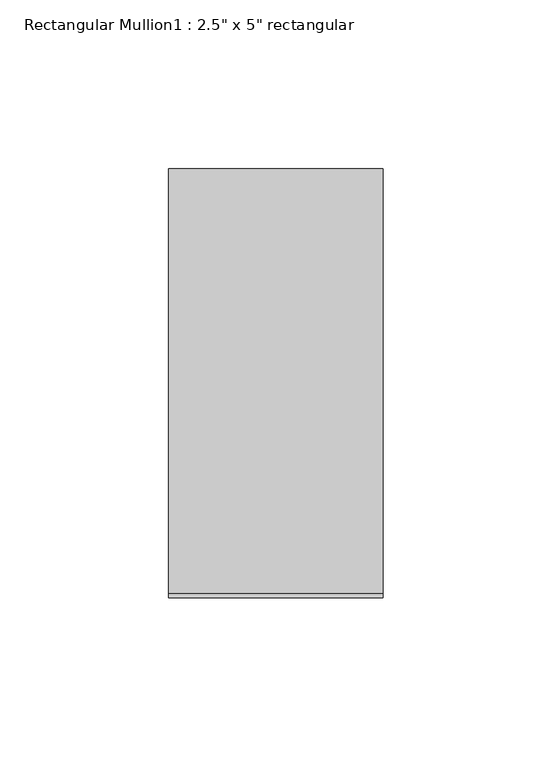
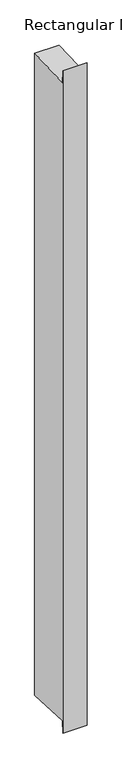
"""IFC4 building model written with IfcOpenShell, lengths in millimetres: member geometry."""

from ifc_helpers import new_model, si_unit, frame, origin, place, context, project, spatial, polyline, outline, extrude, source, transform, mapped, element, save


def member_7b0b344d(model_context):
    return source(origin(), model_context, "Body", "SweptSolid", [
        extrude(outline(polyline([(-63.5, 30.4748075), (-62.174126, -2.5237591), (63.5, 2.5257955), (63.5, -1767.8257955), (-62.174126, -1762.7762409), (-63.5, -1795.7748075), (-63.5, 30.4748075)])), frame((-63.5, 0.0, 0.0), z_axis=(1.0, 0.0, 0.0), x_axis=(0.0, 1.0, 0.0)), (0.0, 0.0, 1.0), 63.5),
    ])


if __name__ == "__main__":
    model = new_model("IFC4")
    model_context = context("Model", 3, world=origin())
    ifc_project = project(units=[si_unit("LENGTHUNIT", "METRE", prefix="MILLI")], contexts=[model_context])
    site = spatial("IfcSite", under=ifc_project)
    building = spatial("IfcBuilding", under=site)
    placement = place(None, origin())
    member_shape = member_7b0b344d(model_context)
    element("IfcMember", 1, ObjectType="Rectangular Mullion1 : 2.5\" x 5\" rectangular", at=placement, inside=building, context=model_context, shape_type="MappedRepresentation", body=[
        mapped(member_shape, transform((0.0, 0.0, 0.0), x_axis=(1.0, 0.0, 0.0), y_axis=(0.0, 1.0, 0.0), z_axis=(0.0, 0.0, 1.0))),
    ])
    save(model, "model.ifc")
